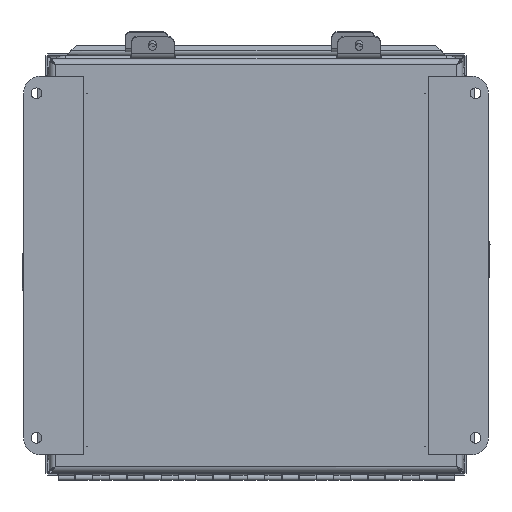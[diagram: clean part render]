
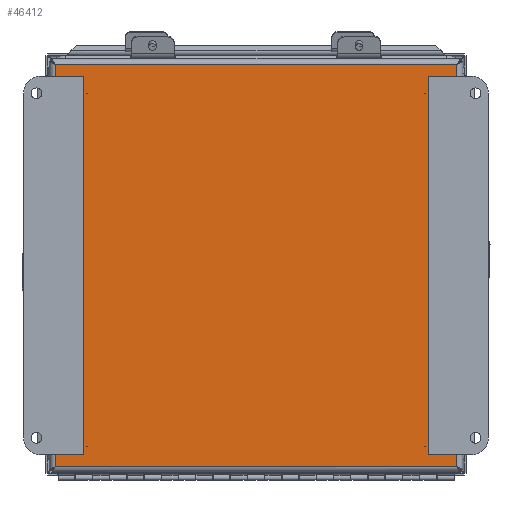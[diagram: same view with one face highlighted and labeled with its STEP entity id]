
A CAD part, front view. The second image highlights one B-rep face of the part: STEP entity #46412.
In plain terms, the highlighted planar face has unit normal (0, -1, 0).
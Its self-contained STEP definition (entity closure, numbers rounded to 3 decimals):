
#5403 = EDGE_LOOP ( 'NONE', ( #10539, #10538, #10540, #10541 ) ) ;
#10538 = ORIENTED_EDGE ( 'NONE', *, *, #11713, .T. ) ;
#10539 = ORIENTED_EDGE ( 'NONE', *, *, #11702, .T. ) ;
#10540 = ORIENTED_EDGE ( 'NONE', *, *, #11714, .T. ) ;
#10541 = ORIENTED_EDGE ( 'NONE', *, *, #11695, .T. ) ;
#11695 = EDGE_CURVE ( 'NONE', #12560, #12557, #28216, .T. ) ;
#11702 = EDGE_CURVE ( 'NONE', #12557, #12558, #28235, .T. ) ;
#11713 = EDGE_CURVE ( 'NONE', #12558, #12559, #28251, .T. ) ;
#11714 = EDGE_CURVE ( 'NONE', #12559, #12560, #28253, .T. ) ;
#12557 = VERTEX_POINT ( 'NONE', #35706 ) ;
#12558 = VERTEX_POINT ( 'NONE', #35707 ) ;
#12559 = VERTEX_POINT ( 'NONE', #35708 ) ;
#12560 = VERTEX_POINT ( 'NONE', #35709 ) ;
#28216 = LINE ( 'NONE', #29534, #28218 ) ;
#28218 = VECTOR ( 'NONE', #29535, 39.37 ) ;
#28235 = LINE ( 'NONE', #29550, #28236 ) ;
#28236 = VECTOR ( 'NONE', #29551, 39.37 ) ;
#28251 = LINE ( 'NONE', #29578, #28252 ) ;
#28252 = VECTOR ( 'NONE', #29581, 39.37 ) ;
#28253 = LINE ( 'NONE', #29582, #28254 ) ;
#28254 = VECTOR ( 'NONE', #29583, 39.37 ) ;
#29534 = CARTESIAN_POINT ( 'NONE',  ( -6., 0., -5.833 ) ) ;
#29535 = DIRECTION ( 'NONE',  ( 1., 0., 0. ) ) ;
#29550 = CARTESIAN_POINT ( 'NONE',  ( 5.833, 0., -6. ) ) ;
#29551 = DIRECTION ( 'NONE',  ( 0., 0., 1. ) ) ;
#29578 = CARTESIAN_POINT ( 'NONE',  ( 66., 0., 5.833 ) ) ;
#29581 = DIRECTION ( 'NONE',  ( -1., 0., 0. ) ) ;
#29582 = CARTESIAN_POINT ( 'NONE',  ( -5.833, 0., 6. ) ) ;
#29583 = DIRECTION ( 'NONE',  ( 0., 0., -1. ) ) ;
#35706 = CARTESIAN_POINT ( 'NONE',  ( 5.833, 0., -5.833 ) ) ;
#35707 = CARTESIAN_POINT ( 'NONE',  ( 5.833, 0., 5.833 ) ) ;
#35708 = CARTESIAN_POINT ( 'NONE',  ( -5.833, 0., 5.833 ) ) ;
#35709 = CARTESIAN_POINT ( 'NONE',  ( -5.833, 0., -5.833 ) ) ;
#41844 = PLANE ( 'NONE',  #51228 ) ;
#41849 = CARTESIAN_POINT ( 'NONE',  ( 6., 0., -6. ) ) ;
#41850 = DIRECTION ( 'NONE',  ( 0., -1., 0. ) ) ;
#41851 = DIRECTION ( 'NONE',  ( 0., 0., -1. ) ) ;
#46412 = ADVANCED_FACE ( 'NONE', ( #49159 ), #41844, .T. ) ;
#49159 = FACE_OUTER_BOUND ( 'NONE', #5403, .T. ) ;
#51228 = AXIS2_PLACEMENT_3D ( 'NONE', #41849, #41850, #41851 ) ;
